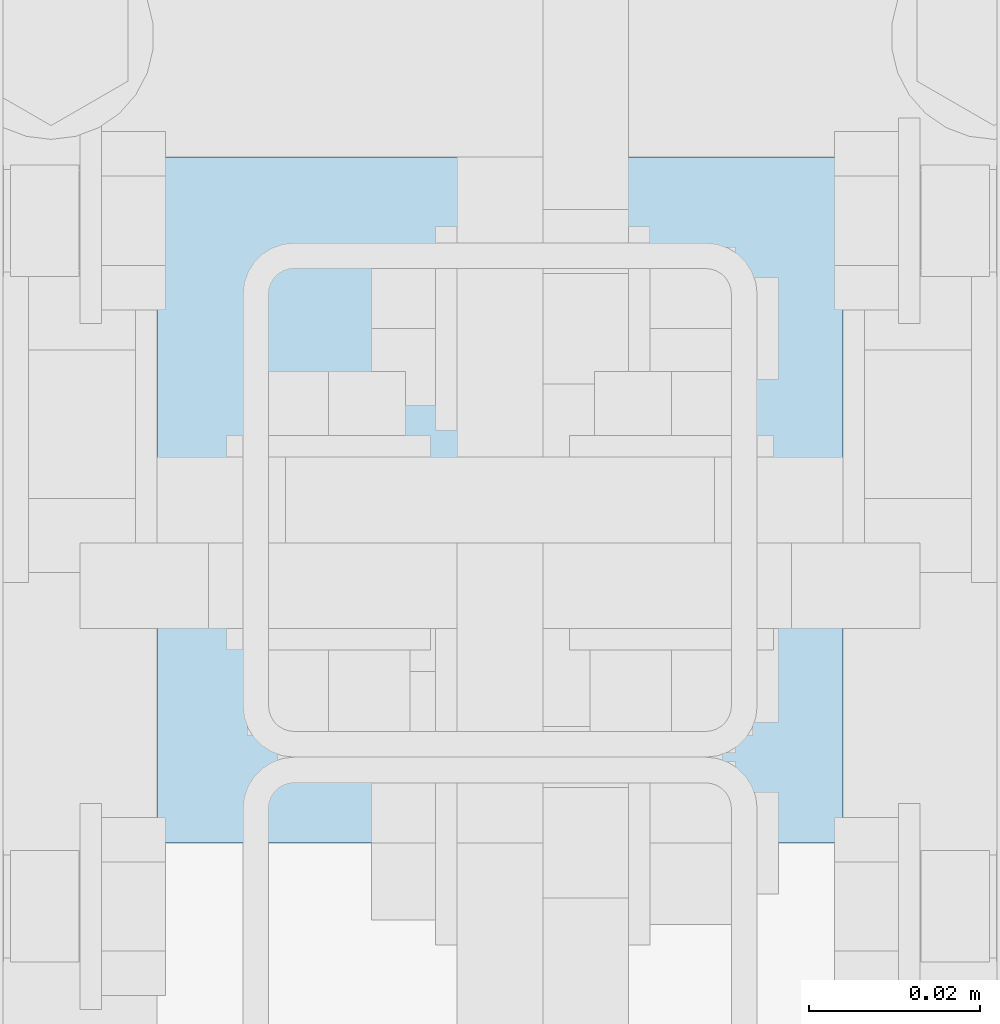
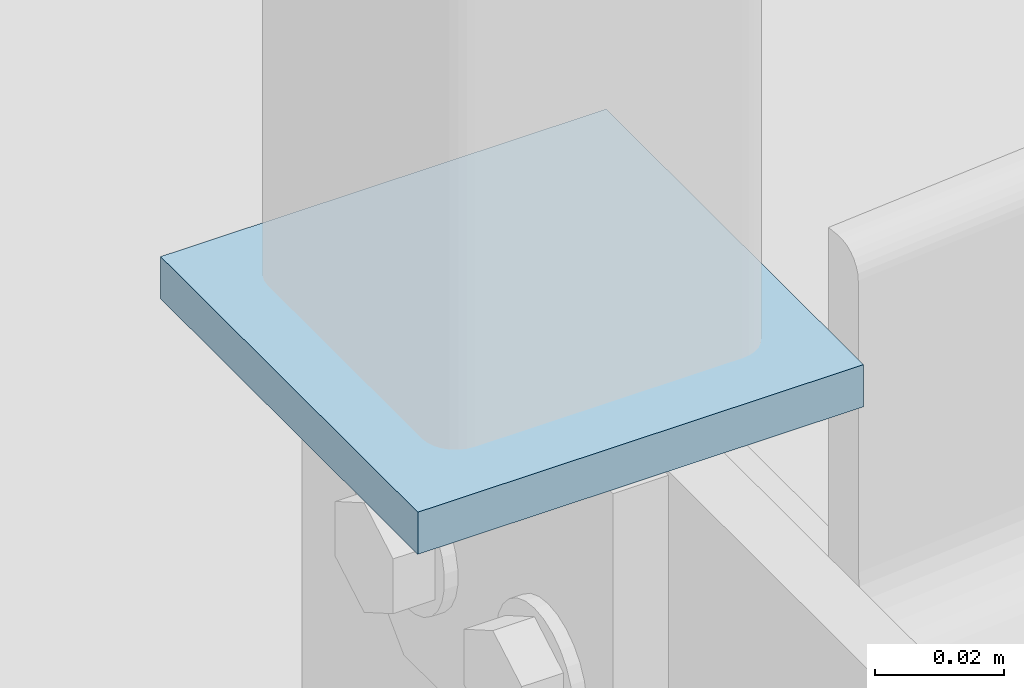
# One storey, part 132 of 271: 1 plate, 1 element without a shape of its own.
"""IFC2X3 building model written with IfcOpenShell, lengths in millimetres."""

from ifc_helpers import new_model, si_unit, frame, origin_with_axes, place, context, subcontext, project, spatial, polyline, outline, extrude, material, type_object, element, aggregate, save


model = new_model("IFC2X3")

# Units and contexts
model_context = context("Model", 3, precision=1e-05, world=origin_with_axes())
body_context = subcontext(model_context, "Body", "Model", "MODEL_VIEW")
ifc_project = project(units=[si_unit("LENGTHUNIT", "METRE", prefix="MILLI"), si_unit("AREAUNIT", "SQUARE_METRE"), si_unit("VOLUMEUNIT", "CUBIC_METRE"), si_unit("MASSUNIT", "GRAM", prefix="KILO"), si_unit("TIMEUNIT", "SECOND"), si_unit("PLANEANGLEUNIT", "RADIAN"), si_unit("SOLIDANGLEUNIT", "STERADIAN"), si_unit("THERMODYNAMICTEMPERATUREUNIT", "DEGREE_CELSIUS"), si_unit("LUMINOUSINTENSITYUNIT", "LUMEN")], contexts=[model_context])

# Site, building, storey
site_placement = place(None, origin_with_axes())
site = spatial("IfcSite", under=ifc_project, at=site_placement, Name="Undefined", CompositionType="ELEMENT")
building_placement = place(site_placement, origin_with_axes())
building = spatial("IfcBuilding", under=site, at=building_placement, Name="Undefined", CompositionType="ELEMENT")
storey_placement = place(building_placement, origin_with_axes())
storey = spatial("IfcBuildingStorey", under=building, at=storey_placement, Name="Undefined", CompositionType="ELEMENT", Elevation=0.0)

# Assembly, plate
assembly_placement = place(storey_placement, origin_with_axes())
assembly = element("IfcElementAssembly", 1, at=assembly_placement, inside=storey, AssemblyPlace="NOTDEFINED", PredefinedType="RIGID_FRAME")
ifc_material = material(Name="STEEL/S355JR")
plate_type = type_object("IfcPlateType", Name="BL8*80", PredefinedType="NOTDEFINED")
plate_placement = place(assembly_placement, frame((6388.37568736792, 3724.92439872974, 133.849999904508), z_axis=(0.0, 0.0, -1.0), x_axis=(-1.0, 0.0, 1.38777878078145e-17)))
plate = element("IfcPlate", 2, at=plate_placement, type_object=plate_type, material=ifc_material, Name="BLACHA", ObjectType="BL8*80", context=body_context, shape_type="SweptSolid", body=[
    extrude(outline(polyline([(0.0, 0.0), (80.0, 0.0), (80.0, 80.0), (0.0, 80.0), (0.0, 0.0)])), frame((0.0, 0.0, -4.0), z_axis=(0.0, 0.0, 1.0), x_axis=(1.0, 0.0, 0.0)), (0.0, 0.0, 1.0), 8.0),
])
aggregate(assembly, [plate])

save(model, "model.ifc")
